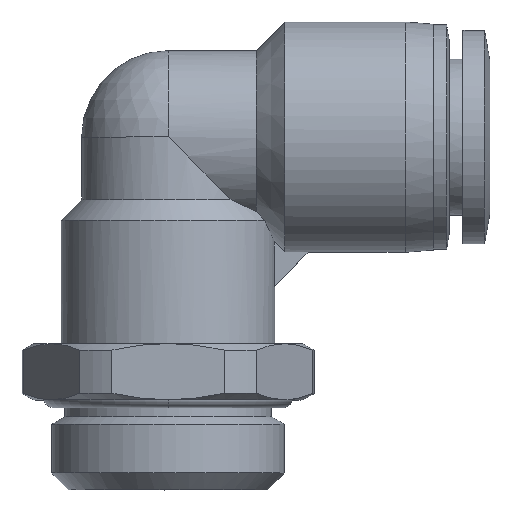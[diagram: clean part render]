
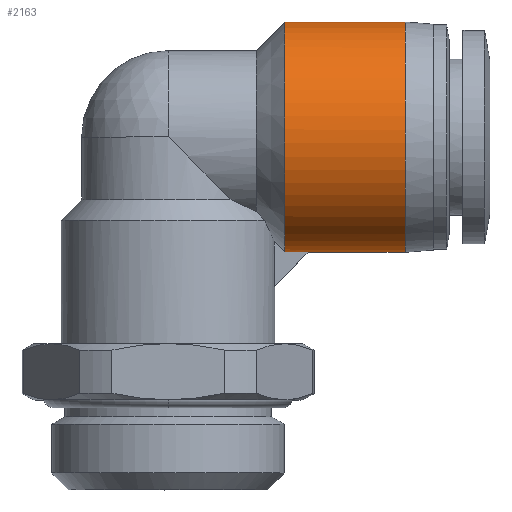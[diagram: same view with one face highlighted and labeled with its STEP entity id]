
A CAD part, top view. The second image highlights one B-rep face of the part: STEP entity #2163.
In plain terms, the highlighted cylindrical face has radius 10.25 mm (diameter 20.5 mm), a partial arc.
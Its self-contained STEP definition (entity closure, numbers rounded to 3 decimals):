
#61 = CARTESIAN_POINT ( 'NONE',  ( 12.549, 8.199, 1. ) ) ;
#133 = EDGE_CURVE ( 'NONE', #1229, #4291, #4376, .T. ) ;
#139 = CARTESIAN_POINT ( 'NONE',  ( 15.75, 18.4, 0. ) ) ;
#188 = CARTESIAN_POINT ( 'NONE',  ( 21.1, 19.742, 10.25 ) ) ;
#211 = CARTESIAN_POINT ( 'NONE',  ( 21.1, 9.444, 5.162 ) ) ;
#234 = CARTESIAN_POINT ( 'NONE',  ( 10.4, 24.926, 8.01 ) ) ;
#325 = CARTESIAN_POINT ( 'NONE',  ( 10.4, 16.292, 10.115 ) ) ;
#332 = CARTESIAN_POINT ( 'NONE',  ( 15.75, 8.15, 0. ) ) ;
#552 = CARTESIAN_POINT ( 'NONE',  ( 21.1, 13.238, 8.956 ) ) ;
#562 = EDGE_CURVE ( 'NONE', #1220, #2753, #4511, .T. ) ;
#576 = CARTESIAN_POINT ( 'NONE',  ( 10.4, 28.65, 0. ) ) ;
#668 = CARTESIAN_POINT ( 'NONE',  ( 10.4, 28.4, 2.6 ) ) ;
#716 = AXIS2_PLACEMENT_3D ( 'NONE', #139, #3327, #2545 ) ;
#828 = VECTOR ( 'NONE', #1884, 1000. ) ;
#857 = B_SPLINE_CURVE_WITH_KNOTS ( 'NONE', 3,
 ( #2891, #1127, #1153, #2541 ),
 .UNSPECIFIED., .F., .F.,
 ( 4, 4 ),
 ( 0., 1. ),
 .UNSPECIFIED. ) ;
#922 = CARTESIAN_POINT ( 'NONE',  ( 21.1, 28.65, 1.342 ) ) ;
#1127 = CARTESIAN_POINT ( 'NONE',  ( 11.833, 8.199, 1. ) ) ;
#1153 = CARTESIAN_POINT ( 'NONE',  ( 11.116, 8.199, 1. ) ) ;
#1220 = VERTEX_POINT ( 'NONE', #2238 ) ;
#1227 = FACE_OUTER_BOUND ( 'NONE', #1382, .T. ) ;
#1229 = VERTEX_POINT ( 'NONE', #1928 ) ;
#1299 = CARTESIAN_POINT ( 'NONE',  ( 10.4, 9.898, 5.871 ) ) ;
#1326 = CARTESIAN_POINT ( 'NONE',  ( 10.4, 8.199, 1. ) ) ;
#1347 = CARTESIAN_POINT ( 'NONE',  ( 10.4, 21.485, 9.861 ) ) ;
#1382 = EDGE_LOOP ( 'NONE', ( #3873, #2723, #3559, #3282, #4451, #2363 ) ) ;
#1528 = VECTOR ( 'NONE', #4554, 1000. ) ;
#1551 = CARTESIAN_POINT ( 'NONE',  ( 21.1, 28.65, 0. ) ) ;
#1575 = CARTESIAN_POINT ( 'NONE',  ( 12.5, 8.15, 0. ) ) ;
#1614 = CARTESIAN_POINT ( 'NONE',  ( 21.1, 10.203, 6.299 ) ) ;
#1635 = CARTESIAN_POINT ( 'NONE',  ( 10.4, 20.199, 10.174 ) ) ;
#1636 = CARTESIAN_POINT ( 'NONE',  ( 21.1, 23.562, 8.956 ) ) ;
#1834 = CARTESIAN_POINT ( 'NONE',  ( 12.516, 8.166, 0.667 ) ) ;
#1884 = DIRECTION ( 'NONE',  ( 1., 0., 0. ) ) ;
#1901 = CARTESIAN_POINT ( 'NONE',  ( 21.1, 8.15, 1.342 ) ) ;
#1928 = CARTESIAN_POINT ( 'NONE',  ( 10.4, 28.65, 0. ) ) ;
#1973 = CARTESIAN_POINT ( 'NONE',  ( 21.1, 12.101, 8.197 ) ) ;
#1997 = CARTESIAN_POINT ( 'NONE',  ( 10.4, 26.719, 6.127 ) ) ;
#2046 = CARTESIAN_POINT ( 'NONE',  ( 10.4, 10.718, 6.91 ) ) ;
#2163 = ADVANCED_FACE ( 'NONE', ( #1227 ), #2569, .T. ) ;
#2215 = CARTESIAN_POINT ( 'NONE',  ( 12.5, 8.15, 0.333 ) ) ;
#2238 = CARTESIAN_POINT ( 'NONE',  ( 21.1, 28.65, 0. ) ) ;
#2239 = LINE ( 'NONE', #4000, #828 ) ;
#2342 = CARTESIAN_POINT ( 'NONE',  ( 21.1, 8.15, 0. ) ) ;
#2363 = ORIENTED_EDGE ( 'NONE', *, *, #3306, .F. ) ;
#2541 = CARTESIAN_POINT ( 'NONE',  ( 10.4, 8.199, 1. ) ) ;
#2545 = DIRECTION ( 'NONE',  ( 0., 1., 0. ) ) ;
#2569 = CYLINDRICAL_SURFACE ( 'NONE', #716, 10.25 ) ;
#2723 = ORIENTED_EDGE ( 'NONE', *, *, #4269, .T. ) ;
#2734 = CARTESIAN_POINT ( 'NONE',  ( 10.4, 12.686, 8.609 ) ) ;
#2753 = VERTEX_POINT ( 'NONE', #2342 ) ;
#2808 = CARTESIAN_POINT ( 'NONE',  ( 10.4, 8.199, 1. ) ) ;
#2834 = EDGE_CURVE ( 'NONE', #1229, #1220, #2239, .T. ) ;
#2891 = CARTESIAN_POINT ( 'NONE',  ( 12.549, 8.199, 1. ) ) ;
#2912 = VERTEX_POINT ( 'NONE', #61 ) ;
#3035 = CARTESIAN_POINT ( 'NONE',  ( 21.1, 15.717, 9.983 ) ) ;
#3060 = CARTESIAN_POINT ( 'NONE',  ( 10.4, 17.602, 10.301 ) ) ;
#3135 = LINE ( 'NONE', #332, #1528 ) ;
#3190 = B_SPLINE_CURVE_WITH_KNOTS ( 'NONE', 3,
 ( #3591, #2215, #1834, #3244 ),
 .UNSPECIFIED., .F., .F.,
 ( 4, 4 ),
 ( 0.5, 1. ),
 .UNSPECIFIED. ) ;
#3244 = CARTESIAN_POINT ( 'NONE',  ( 12.549, 8.199, 1. ) ) ;
#3282 = ORIENTED_EDGE ( 'NONE', *, *, #2834, .F. ) ;
#3306 = EDGE_CURVE ( 'NONE', #2912, #4291, #857, .T. ) ;
#3327 = DIRECTION ( 'NONE',  ( 1., 0., 0. ) ) ;
#3330 = CARTESIAN_POINT ( 'NONE',  ( 21.1, 8.417, 2.683 ) ) ;
#3395 = CARTESIAN_POINT ( 'NONE',  ( 10.4, 28.65, 1.3 ) ) ;
#3396 = CARTESIAN_POINT ( 'NONE',  ( 21.1, 17.058, 10.25 ) ) ;
#3489 = CARTESIAN_POINT ( 'NONE',  ( 10.4, 8.326, 2.294 ) ) ;
#3559 = ORIENTED_EDGE ( 'NONE', *, *, #562, .F. ) ;
#3591 = CARTESIAN_POINT ( 'NONE',  ( 12.5, 8.15, 0. ) ) ;
#3676 = CARTESIAN_POINT ( 'NONE',  ( 21.1, 24.699, 8.197 ) ) ;
#3696 = CARTESIAN_POINT ( 'NONE',  ( 21.1, 26.597, 6.299 ) ) ;
#3770 = CARTESIAN_POINT ( 'NONE',  ( 21.1, 27.356, 5.162 ) ) ;
#3792 = CARTESIAN_POINT ( 'NONE',  ( 10.4, 27.434, 5.014 ) ) ;
#3873 = ORIENTED_EDGE ( 'NONE', *, *, #4409, .F. ) ;
#4000 = CARTESIAN_POINT ( 'NONE',  ( 15.75, 28.65, 0. ) ) ;
#4040 = CARTESIAN_POINT ( 'NONE',  ( 21.1, 21.083, 9.983 ) ) ;
#4157 = CARTESIAN_POINT ( 'NONE',  ( 10.4, 23.849, 8.779 ) ) ;
#4269 = EDGE_CURVE ( 'NONE', #4516, #2753, #3135, .T. ) ;
#4291 = VERTEX_POINT ( 'NONE', #2808 ) ;
#4376 = B_SPLINE_CURVE_WITH_KNOTS ( 'NONE', 3,
 ( #576, #3395, #668, #3792, #1997, #234, #4157, #1347, #1635, #3060, #325, #4457, #2734, #2046, #1299, #4500, #3489, #1326 ),
 .UNSPECIFIED., .F., .F.,
 ( 4, 2, 2, 2, 2, 2, 2, 2, 4 ),
 ( 0.5, 0.563, 0.625, 0.688, 0.75, 0.813, 0.875, 0.938, 1. ),
 .UNSPECIFIED. ) ;
#4409 = EDGE_CURVE ( 'NONE', #4516, #2912, #3190, .T. ) ;
#4433 = CARTESIAN_POINT ( 'NONE',  ( 21.1, 28.383, 2.683 ) ) ;
#4451 = ORIENTED_EDGE ( 'NONE', *, *, #133, .T. ) ;
#4457 = CARTESIAN_POINT ( 'NONE',  ( 10.4, 13.834, 9.268 ) ) ;
#4458 = CARTESIAN_POINT ( 'NONE',  ( 21.1, 8.15, 0. ) ) ;
#4500 = CARTESIAN_POINT ( 'NONE',  ( 10.4, 8.702, 3.563 ) ) ;
#4511 = B_SPLINE_CURVE_WITH_KNOTS ( 'NONE', 3,
 ( #1551, #922, #4433, #3770, #3696, #3676, #1636, #4040, #188, #3396, #3035, #552, #1973, #1614, #211, #3330, #1901, #4458 ),
 .UNSPECIFIED., .F., .F.,
 ( 4, 2, 2, 2, 2, 2, 2, 2, 4 ),
 ( 0., 0.062, 0.125, 0.187, 0.25, 0.312, 0.375, 0.437, 0.5 ),
 .UNSPECIFIED. ) ;
#4516 = VERTEX_POINT ( 'NONE', #1575 ) ;
#4554 = DIRECTION ( 'NONE',  ( 1., 0., 0. ) ) ;
